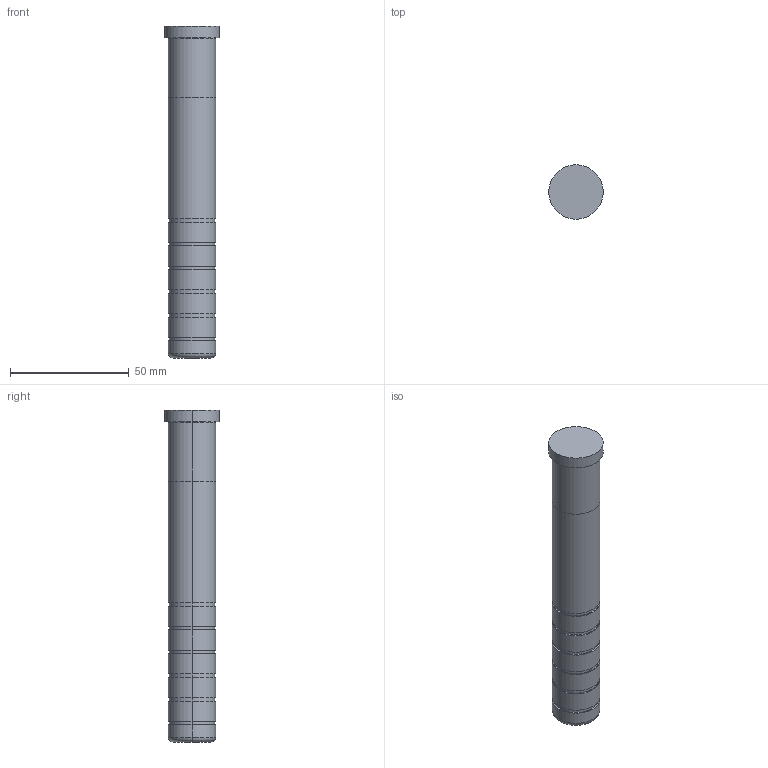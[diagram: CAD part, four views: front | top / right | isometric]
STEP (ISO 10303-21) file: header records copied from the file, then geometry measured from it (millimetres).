
FILE_DESCRIPTION(/* description */ (''),/* implementation_level */ '2;1');
FILE_NAME(/* name */ '3d_sgoh20-140_05189_r00.stp',/* time_stamp */ '2011-01-10T14:11:09+09:00',/* author */ ('MISUMI'),/* organization */ (''),/* preprocessor_version */ 'ST-DEVELOPER v11',/* originating_system */ 'UGS - NX 5.0',/* authorisation */ '');
FILE_SCHEMA (('CONFIG_CONTROL_DESIGN'));
Length unit declared in the file: millimetre
Products named in the file (1): 3d_sgoh20-140_05189_r00
Bounding box: 23 x 23 x 140 mm (x, y, z)
Volume: 44162.5 mm3; surface area: 9951.4 mm2
Topology: 1 solids, 1 shells, 49 faces, 96 edges, 62 vertices
Faces by surface type: cylinder 30, plane 15, torus 4
Entity records: 1374 total; most frequent: DIRECTION 262, CARTESIAN_POINT 208, ORIENTED_EDGE 192, AXIS2_PLACEMENT_3D 116, EDGE_CURVE 96, CIRCLE 66, EDGE_LOOP 62, VERTEX_POINT 62
